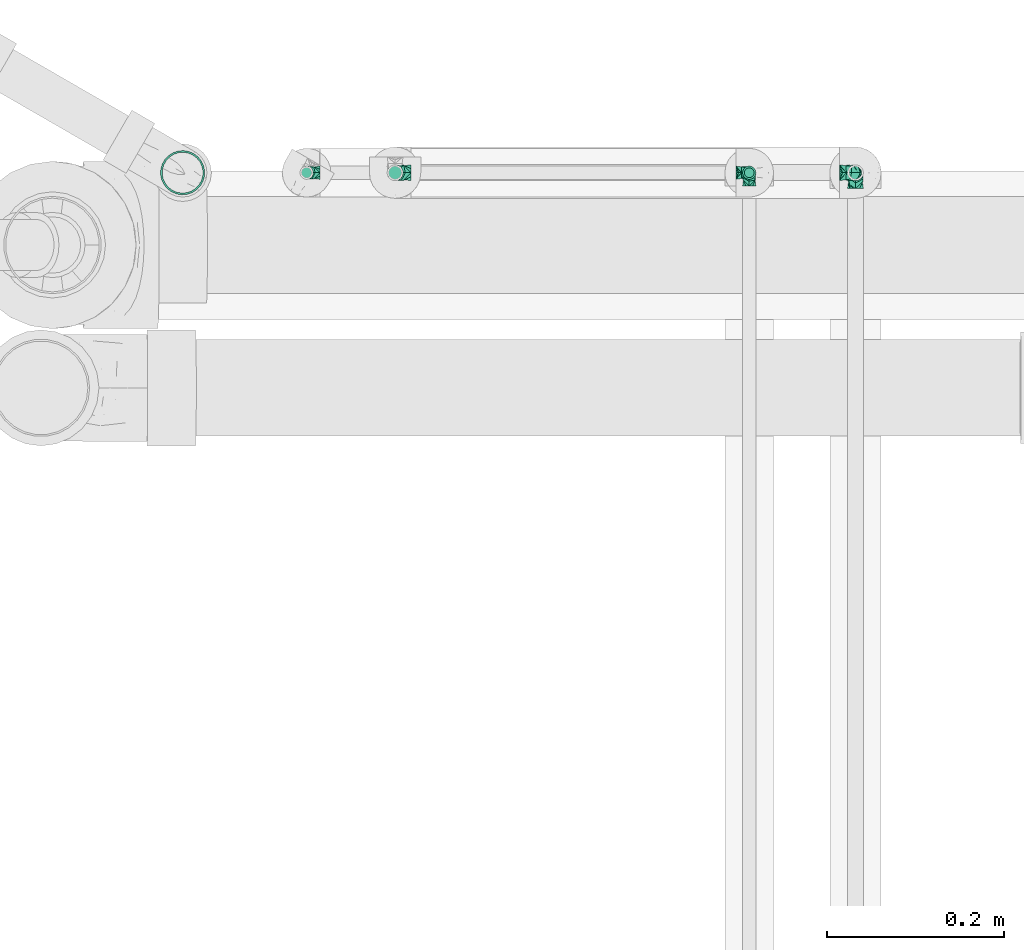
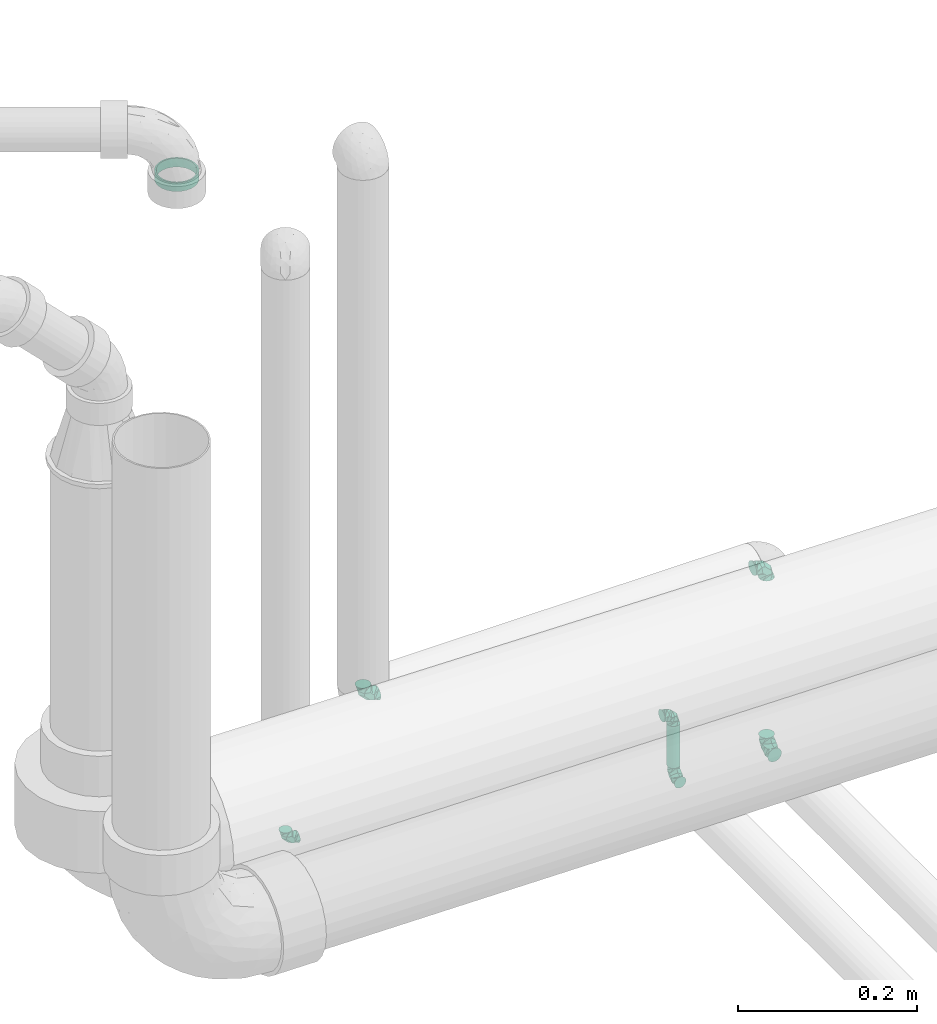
# One storey, part 45 of 78: 6 flow fittings, 2 flow segments.
"""IFC2X3 building model written with IfcOpenShell, lengths in millimetres."""

from ifc_helpers import new_model, entity, si_unit, converted_unit, derived_unit, direction, frame, origin_with_axes, origin_2d_with_axis, place, context, subcontext, project, spatial, hollow_circle, extrude, open_shell, surface_model, source, transform, mapped, type_object, element, save


model = new_model("IFC2X3")

# Units and contexts
model_context = context("Model", 3, precision=0.01, world=frame((0.0, 4.29681676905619e-09, 0.0)), true_north=direction((4.01073788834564e-13, 1.0)))
plan_context = context("Plan", 3, precision=0.01, world=frame((0.0, 4.29681676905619e-09, 0.0)), true_north=direction((4.01073788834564e-13, 1.0)))
body_context = subcontext(model_context, "Body", "Model", "MODEL_VIEW")
ifc_project = project(units=[converted_unit("PLANEANGLEUNIT", "DEGREE", entity("IfcPositiveLengthMeasure", 0.0174532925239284), si_unit("PLANEANGLEUNIT", "RADIAN"), dimensions=[0, 0, 0, 0, 0, 0, 0]), si_unit("AREAUNIT", "SQUARE_METRE"), si_unit("LENGTHUNIT", "METRE", prefix="MILLI"), si_unit("MASSUNIT", "GRAM", prefix="KILO"), si_unit("POWERUNIT", "WATT"), si_unit("PRESSUREUNIT", "PASCAL"), si_unit("FORCEUNIT", "NEWTON", prefix="KILO"), si_unit("ELECTRICVOLTAGEUNIT", "VOLT"), si_unit("ELECTRICCURRENTUNIT", "AMPERE"), si_unit("THERMODYNAMICTEMPERATUREUNIT", "DEGREE_CELSIUS"), si_unit("TIMEUNIT", "SECOND"), si_unit("VOLUMEUNIT", "CUBIC_METRE"), derived_unit("LINEARVELOCITYUNIT", [(si_unit("LENGTHUNIT", "METRE"), 1), (si_unit("TIMEUNIT", "SECOND"), -1)]), derived_unit("VOLUMETRICFLOWRATEUNIT", [(si_unit("VOLUMEUNIT", "CUBIC_METRE"), 1), (si_unit("TIMEUNIT", "SECOND"), -1)]), derived_unit("THERMALTRANSMITTANCEUNIT", [(si_unit("POWERUNIT", "WATT"), 1), (si_unit("THERMODYNAMICTEMPERATUREUNIT", "KELVIN"), -1), (si_unit("AREAUNIT", "SQUARE_METRE"), -1)]), derived_unit("SOUNDPRESSUREUNIT", [(si_unit("PRESSUREUNIT", "PASCAL"), 1)])], contexts=[model_context, plan_context])

# Site, building, storey
site_placement = place(None, frame((0.0, -4.29681676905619e-09, 0.0), z_axis=(0.0, 0.0, 1.0), x_axis=(1.0, 0.0, 0.0)))
site = spatial("IfcSite", under=ifc_project, at=site_placement, Name="ENGM", CompositionType="ELEMENT")
building_placement = place(site_placement, frame((0.0, 4.29681676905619e-09, 0.0), z_axis=(0.0, 0.0, 1.0), x_axis=(1.0, 0.0, 0.0)))
building = spatial("IfcBuilding", under=site, at=building_placement, Name="TH", CompositionType="ELEMENT")
storey_placement = place(building_placement, frame((0.0, 0.0, 205200.0), z_axis=(0.0, 0.0, 1.0), x_axis=(1.0, 0.0, 0.0)))
storey = spatial("IfcBuildingStorey", under=building, at=storey_placement, Name="Nivå D + 1,2 m", CompositionType="ELEMENT", Elevation=205200.0)

# Flow fittings
pipe_fitting_type = type_object("IfcPipeFittingType", Name="magi_pipe_cu_elbow_short_001", PredefinedType="BEND")
shared_shape_1 = source(origin_with_axes(), body_context, "Body", "SurfaceModel", [
    surface_model("IfcShellBasedSurfaceModel", [(-18.0, 4.5, -7.79423), (-18.0, 2.32937, -8.69333), (-18.0, 0.0, -9.0), (-18.0, -6.36396, -6.36396), (-18.0, 8.69333, -2.32937), (-18.0, 7.79423, -4.5), (-18.0, 6.36396, -6.36396), (-18.0, -4.5, -7.79423), (-18.0, -2.32937, -8.69333), (-18.0, -7.79423, -4.5), (-18.0, -8.69333, -2.32937), (-18.0, -9.0, 0.0), (-18.0, 8.69333, 2.32937), (-18.0, -8.69333, 2.32937), (-18.0, 7.79423, 4.5), (-18.0, 6.36396, 6.36396), (-18.0, 2.32937, 8.69333), (-18.0, 4.5, 7.79423), (-18.0, -7.79423, 4.5), (-18.0, -6.36396, 6.36396), (-18.0, -4.5, 7.79423), (-18.0, -2.32937, 8.69333), (-18.0, 0.0, 9.0), (-18.0, 9.0, 0.0), (0.0, 18.0, -9.0), (-2.32937, 18.0, -8.69333), (-4.5, 18.0, -7.79423), (6.36396, 18.0, -6.36396), (-6.36396, 18.0, -6.36396), (-7.79423, 18.0, -4.5), (-8.69333, 18.0, -2.32937), (-8.69333, 18.0, 2.32937), (2.32937, 18.0, -8.69333), (4.5, 18.0, -7.79423), (8.69333, 18.0, -2.32937), (7.79423, 18.0, -4.5), (9.0, 18.0, 0.0), (7.79423, 18.0, 4.5), (-9.0, 18.0, 0.0), (-6.36396, 18.0, 6.36396), (-7.79423, 18.0, 4.5), (-4.5, 18.0, 7.79423), (-2.32937, 18.0, 8.69333), (6.36396, 18.0, 6.36396), (8.69333, 18.0, 2.32937), (2.32937, 18.0, 8.69333), (4.5, 18.0, 7.79423), (0.0, 18.0, 9.0), (-16.09014, -8.48825, 0.0), (-10.51068, -2.97249, 7.92278), (-10.36056, -6.95302, 0.0), (-4.5, -5.38269, 0.0), (0.44134, -0.44134, 0.0), (2.91201, 2.02933, 0.0), (-2.70211, 1.18586, 7.65564), (-2.02933, -2.91201, 0.0), (-14.18028, -7.97651, 0.0), (-7.11648, 7.11648, 8.61373), (-4.93977, 9.63211, 8.64898), (2.97249, 10.51068, 7.92278), (2.01286, 5.84889, 7.1903), (5.38269, 4.5, 0.0), (-5.73616, -2.07922, 7.10204), (8.48825, 16.09014, 0.0), (7.97651, 14.18028, 0.0), (-9.63211, 4.93977, 8.64898), (-10.31802, 14.81802, 0.0), (-14.81802, 10.31802, 0.0), (-11.63604, 11.63604, 0.0), (6.95302, 10.36056, 0.0), (-10.51068, -2.97249, -7.92278), (-4.93977, 9.63211, -8.64898), (0.8585, 4.1248, -7.1903), (-2.68792, 2.14037, -8.03971), (2.97249, 10.51068, -7.92278), (-13.67048, 7.29638, -6.27272), (-8.50355, 2.18787, -8.98901), (-9.83427, 8.11209, -7.36254)], [open_shell([[[0, 1, 2]], [[0, 2, 3]], [[0, 4, 5]], [[6, 0, 5]], [[4, 0, 3]], [[7, 3, 8]], [[3, 2, 8]], [[9, 10, 3]], [[11, 3, 10]], [[3, 11, 4]], [[11, 12, 4]], [[12, 11, 13]], [[14, 12, 15]], [[16, 17, 15]], [[13, 15, 12]], [[15, 18, 16]], [[18, 19, 16]], [[15, 13, 18]], [[20, 21, 19]], [[22, 19, 21]], [[16, 19, 22]], [[23, 4, 12]], [[24, 25, 26]], [[27, 24, 26]], [[28, 29, 30]], [[28, 30, 26]], [[26, 31, 27]], [[32, 27, 33]], [[32, 24, 27]], [[27, 34, 35]], [[34, 27, 36]], [[27, 37, 36]], [[26, 30, 38]], [[27, 31, 37]], [[39, 31, 40]], [[39, 41, 42]], [[39, 42, 31]], [[43, 31, 42]], [[31, 43, 37]], [[44, 36, 37]], [[43, 45, 46]], [[45, 43, 47]], [[47, 43, 42]], [[31, 26, 38]], [[13, 48, 18]], [[49, 50, 51]], [[52, 53, 54]], [[54, 55, 52]], [[20, 19, 56]], [[18, 56, 19]], [[57, 54, 58]], [[20, 50, 21]], [[22, 21, 50]], [[59, 60, 61]], [[59, 58, 60]], [[55, 54, 62]], [[22, 50, 49]], [[22, 49, 16]], [[62, 49, 51]], [[62, 51, 55]], [[37, 63, 44]], [[49, 17, 16]], [[64, 63, 37]], [[12, 65, 23]], [[14, 15, 49]], [[54, 65, 62]], [[17, 49, 15]], [[58, 38, 66]], [[67, 57, 68]], [[53, 60, 54]], [[45, 47, 69]], [[69, 46, 45]], [[39, 59, 41]], [[42, 59, 47]], [[43, 46, 64]], [[68, 57, 66]], [[64, 46, 69]], [[61, 60, 53]], [[44, 63, 36]], [[59, 61, 69]], [[38, 58, 31]], [[20, 56, 50]], [[54, 57, 65]], [[49, 65, 14]], [[66, 57, 58]], [[64, 37, 43]], [[40, 31, 58]], [[14, 65, 12]], [[39, 40, 59]], [[13, 11, 48]], [[40, 58, 59]], [[48, 56, 18]], [[41, 59, 42]], [[59, 69, 47]], [[49, 62, 65]], [[57, 67, 65]], [[54, 60, 58]], [[67, 23, 65]], [[70, 50, 2]], [[71, 72, 73]], [[74, 71, 29]], [[70, 1, 0]], [[70, 51, 50]], [[34, 36, 63]], [[75, 6, 5]], [[75, 4, 23]], [[5, 4, 75]], [[51, 76, 55]], [[75, 23, 67]], [[70, 6, 75]], [[48, 11, 10]], [[7, 56, 3]], [[2, 50, 8]], [[51, 70, 76]], [[56, 7, 50]], [[7, 8, 50]], [[70, 2, 1]], [[66, 38, 71]], [[52, 72, 53]], [[6, 70, 0]], [[70, 75, 76]], [[73, 52, 55]], [[71, 68, 66]], [[61, 53, 72]], [[33, 64, 69]], [[30, 71, 38]], [[28, 74, 29]], [[56, 9, 3]], [[26, 25, 74]], [[63, 64, 35]], [[56, 48, 9]], [[26, 74, 28]], [[9, 48, 10]], [[24, 74, 25]], [[32, 69, 24]], [[29, 71, 30]], [[27, 64, 33]], [[69, 32, 33]], [[68, 71, 77]], [[74, 24, 69]], [[35, 34, 63]], [[61, 72, 74]], [[61, 74, 69]], [[67, 77, 75]], [[74, 72, 71]], [[35, 64, 27]], [[76, 77, 73]], [[75, 77, 76]], [[77, 71, 73]], [[55, 76, 73]], [[72, 52, 73]], [[77, 67, 68]]])]),
])
for number, where, z_axis, x_axis, name in (
    (1, (900010.50163, 483351.12926, 4210.0), (1.0, 0.0, 0.0), (0.0, 1.0, 0.0), "magi_pipe_cu_elbow_short_001"),
    (2, (900010.50163, 483351.12926, 4460.0), (0.0, -1.0, 0.0), (0.0, 0.0, 1.0), "magi_pipe_cu_elbow_short_001"),
    (3, (899490.50163, 483351.12956, 4460.0), (0.0, -1.0, 0.0), (0.0, 0.0, -1.0), "magi_pipe_cu_elbow_short_001"),
):
    element("IfcFlowFitting", number, at=place(storey_placement, frame(where, z_axis=z_axis, x_axis=x_axis)), inside=storey, type_object=pipe_fitting_type, Name=name, context=body_context, shape_type="MappedRepresentation", body=[
        mapped(shared_shape_1, transform((0.0, 0.0, 0.0), scale=1.0)),
    ])
shared_shape_2 = source(origin_with_axes(), body_context, "Body", "SurfaceModel", [
    surface_model("IfcShellBasedSurfaceModel", [(-15.0, 0.0, -7.5), (-15.0, -6.49519, -3.75), (-15.0, 1.94114, -7.24444), (-15.0, 3.75, -6.49519), (-15.0, 5.3033, -5.3033), (-15.0, 7.24444, -1.94114), (-15.0, 6.49519, -3.75), (-15.0, -5.3033, -5.3033), (-15.0, -3.75, -6.49519), (-15.0, -1.94114, -7.24444), (-15.0, -7.24444, -1.94114), (-15.0, -7.5, 0.0), (-15.0, -6.49519, 3.75), (-15.0, 7.24444, 1.94114), (-15.0, 6.49519, 3.75), (-15.0, 3.75, 6.49519), (-15.0, 1.94114, 7.24444), (-15.0, 5.3033, 5.3033), (-15.0, -5.3033, 5.3033), (-15.0, -7.24444, 1.94114), (-15.0, -1.94114, 7.24444), (-15.0, 0.0, 7.5), (-15.0, -3.75, 6.49519), (-15.0, 7.5, 0.0), (-1.94114, 15.0, -7.24444), (6.49519, 15.0, -3.75), (0.0, 15.0, -7.5), (-5.3033, 15.0, -5.3033), (-3.75, 15.0, -6.49519), (-6.49519, 15.0, -3.75), (-7.24444, 15.0, -1.94114), (3.75, 15.0, -6.49519), (5.3033, 15.0, -5.3033), (1.94114, 15.0, -7.24444), (7.5, 15.0, 0.0), (7.24444, 15.0, -1.94114), (-7.5, 15.0, 0.0), (-7.24444, 15.0, 1.94114), (-6.49519, 15.0, 3.75), (-3.75, 15.0, 6.49519), (-1.94114, 15.0, 7.24444), (-5.3033, 15.0, 5.3033), (5.3033, 15.0, 5.3033), (6.49519, 15.0, 3.75), (7.24444, 15.0, 1.94114), (3.75, 15.0, 6.49519), (0.0, 15.0, 7.5), (1.94114, 15.0, 7.24444), (-13.40845, -7.07355, 0.0), (-8.7589, -2.47707, 6.60232), (-8.6338, -5.79418, 0.0), (-3.75, -4.48557, 0.0), (0.36779, -0.36779, 0.0), (2.42668, 1.69111, 0.0), (-2.25176, 0.98822, 6.3797), (-1.69111, -2.42668, 0.0), (-11.8169, -6.64709, 0.0), (-5.9304, 5.9304, 7.17811), (-4.11647, 8.02676, 7.20749), (2.47708, 8.7589, 6.60232), (1.67739, 4.87408, 5.99192), (4.48557, 3.75, 0.0), (-4.78013, -1.73268, 5.91836), (7.07355, 13.40845, 0.0), (6.64709, 11.8169, 0.0), (-8.02675, 4.11647, 7.20749), (-8.59835, 12.34835, 0.0), (-12.34835, 8.59835, 0.0), (-9.6967, 9.6967, 0.0), (5.79418, 8.6338, 0.0), (-8.7589, -2.47707, -6.60232), (-4.11647, 8.02676, -7.20749), (0.71542, 3.43733, -5.99192), (-2.23993, 1.78364, -6.69976), (2.47708, 8.7589, -6.60232), (-11.39207, 6.08032, -5.22727), (-7.08629, 1.82323, -7.49084), (-8.19523, 6.76007, -6.13545)], [open_shell([[[0, 1, 2]], [[3, 2, 4]], [[5, 6, 4]], [[4, 2, 1]], [[5, 4, 1]], [[7, 1, 8]], [[9, 8, 1]], [[10, 11, 1]], [[0, 9, 1]], [[11, 12, 1]], [[12, 5, 1]], [[13, 5, 12]], [[14, 13, 15]], [[13, 16, 15]], [[17, 14, 15]], [[16, 13, 12]], [[12, 18, 16]], [[12, 11, 19]], [[20, 21, 22]], [[18, 22, 21]], [[16, 18, 21]], [[13, 23, 5]], [[24, 25, 26]], [[27, 24, 28]], [[27, 29, 30]], [[25, 24, 27]], [[25, 27, 30]], [[31, 25, 32]], [[25, 31, 33]], [[25, 34, 35]], [[25, 33, 26]], [[30, 34, 25]], [[30, 36, 34]], [[36, 37, 38]], [[36, 38, 39]], [[40, 34, 39]], [[39, 38, 41]], [[40, 42, 34]], [[42, 43, 34]], [[44, 34, 43]], [[45, 46, 47]], [[45, 42, 40]], [[45, 40, 46]], [[39, 34, 36]], [[19, 48, 12]], [[49, 50, 51]], [[52, 53, 54]], [[54, 55, 52]], [[22, 18, 56]], [[12, 56, 18]], [[57, 54, 58]], [[22, 50, 20]], [[21, 20, 50]], [[59, 60, 61]], [[59, 58, 60]], [[55, 54, 62]], [[21, 50, 49]], [[21, 49, 16]], [[62, 49, 51]], [[62, 51, 55]], [[43, 63, 44]], [[49, 15, 16]], [[64, 63, 43]], [[13, 65, 23]], [[14, 17, 49]], [[54, 65, 62]], [[15, 49, 17]], [[57, 58, 66]], [[67, 57, 68]], [[53, 60, 54]], [[47, 46, 69]], [[69, 45, 47]], [[41, 59, 39]], [[40, 59, 46]], [[42, 45, 64]], [[54, 60, 58]], [[64, 45, 69]], [[61, 60, 53]], [[44, 63, 34]], [[59, 61, 69]], [[58, 36, 66]], [[22, 56, 50]], [[54, 57, 65]], [[49, 65, 14]], [[37, 36, 58]], [[64, 43, 42]], [[38, 37, 58]], [[14, 65, 13]], [[41, 38, 59]], [[19, 11, 48]], [[38, 58, 59]], [[48, 56, 12]], [[39, 59, 40]], [[59, 69, 46]], [[49, 62, 65]], [[57, 67, 65]], [[66, 68, 57]], [[67, 23, 65]], [[70, 50, 0]], [[71, 72, 73]], [[74, 71, 29]], [[70, 2, 3]], [[70, 51, 50]], [[35, 34, 63]], [[75, 4, 6]], [[75, 5, 23]], [[6, 5, 75]], [[51, 76, 55]], [[75, 23, 67]], [[70, 4, 75]], [[48, 11, 10]], [[8, 56, 7]], [[0, 50, 9]], [[51, 70, 76]], [[56, 8, 50]], [[8, 9, 50]], [[70, 0, 2]], [[66, 36, 71]], [[52, 72, 53]], [[4, 70, 3]], [[70, 75, 76]], [[73, 52, 55]], [[71, 68, 66]], [[61, 53, 72]], [[31, 64, 69]], [[30, 71, 36]], [[27, 74, 29]], [[56, 1, 7]], [[28, 24, 74]], [[63, 64, 25]], [[56, 48, 1]], [[28, 74, 27]], [[1, 48, 10]], [[26, 74, 24]], [[33, 69, 26]], [[29, 71, 30]], [[32, 64, 31]], [[69, 33, 31]], [[68, 71, 77]], [[74, 26, 69]], [[25, 35, 63]], [[61, 72, 74]], [[61, 74, 69]], [[67, 77, 75]], [[74, 72, 71]], [[25, 64, 32]], [[76, 77, 73]], [[75, 77, 76]], [[77, 71, 73]], [[55, 76, 73]], [[72, 52, 73]], [[77, 67, 68]]])]),
])
for number, where, z_axis, x_axis, name in (
    (4, (899390.50163, 483351.12945, 4300.0), (0.0, -1.0, 0.0), (0.0, 0.0, -1.0), "magi_pipe_cu_elbow_short_001"),
    (5, (899890.50163, 483351.12945, 4300.0), (0.0, 1.0, 0.0), (1.0, 0.0, 0.0), "magi_pipe_cu_elbow_short_001"),
    (6, (899890.50163, 483351.12945, 4212.79203000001), (-1.0, 0.0, 0.0), (0.0, 3.999999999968e-06, -0.999999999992), "magi_pipe_cu_elbow_short_001"),
):
    element("IfcFlowFitting", number, at=place(storey_placement, frame(where, z_axis=z_axis, x_axis=x_axis)), inside=storey, type_object=pipe_fitting_type, Name=name, context=body_context, shape_type="MappedRepresentation", body=[
        mapped(shared_shape_2, transform((0.0, 0.0, 0.0), scale=1.0)),
    ])

# Flow segments
pipe_segment_type_1 = type_object("IfcPipeSegmentType", Name="PP avløpsrør", PredefinedType="RIGIDSEGMENT")
shared_shape_3 = source(origin_with_axes(), body_context, "Body", "SweptSolid", [
    extrude(hollow_circle(Radius=25.0, WallThickness=2.0, at=origin_2d_with_axis()), frame((0.0, 0.0, 0.0), z_axis=(1.0, 0.0, 0.0), x_axis=(0.0, 1.0, 0.0)), (0.0, 0.0, 1.0), 12.0),
])
flow_segment_1_placement = place(storey_placement, frame((899250.50163, 483351.12945, 5250.07483), z_axis=(0.866025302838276, -0.500000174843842, 0.0), x_axis=(0.0, 0.0, 1.0)))
element("IfcFlowSegment", 7, at=flow_segment_1_placement, inside=storey, type_object=pipe_segment_type_1, Name="PP avløpsrør", context=body_context, shape_type="MappedRepresentation", body=[
    mapped(shared_shape_3, transform((0.0, 0.0, 0.0), scale=1.0)),
])
pipe_segment_type_2 = type_object("IfcPipeSegmentType", Name="Kobberrør", PredefinedType="RIGIDSEGMENT")
shared_shape_4 = source(origin_with_axes(), body_context, "Body", "SweptSolid", [
    extrude(hollow_circle(Radius=7.5, WallThickness=2.0, at=origin_2d_with_axis()), frame((0.0, 0.0, 0.0), z_axis=(1.0, 0.0, 0.0), x_axis=(0.0, 1.0, 0.0)), (0.0, 0.0, 1.0), 57.2),
])
flow_segment_2_placement = place(storey_placement, frame((899890.50163, 483351.12945, 4285.0), z_axis=(0.0, -1.0, 0.0), x_axis=(0.0, 0.0, -1.0)))
element("IfcFlowSegment", 8, at=flow_segment_2_placement, inside=storey, type_object=pipe_segment_type_2, Name="Kobberrør", context=body_context, shape_type="MappedRepresentation", body=[
    mapped(shared_shape_4, transform((0.0, 0.0, 0.0), scale=1.0)),
])

save(model, "model.ifc")
